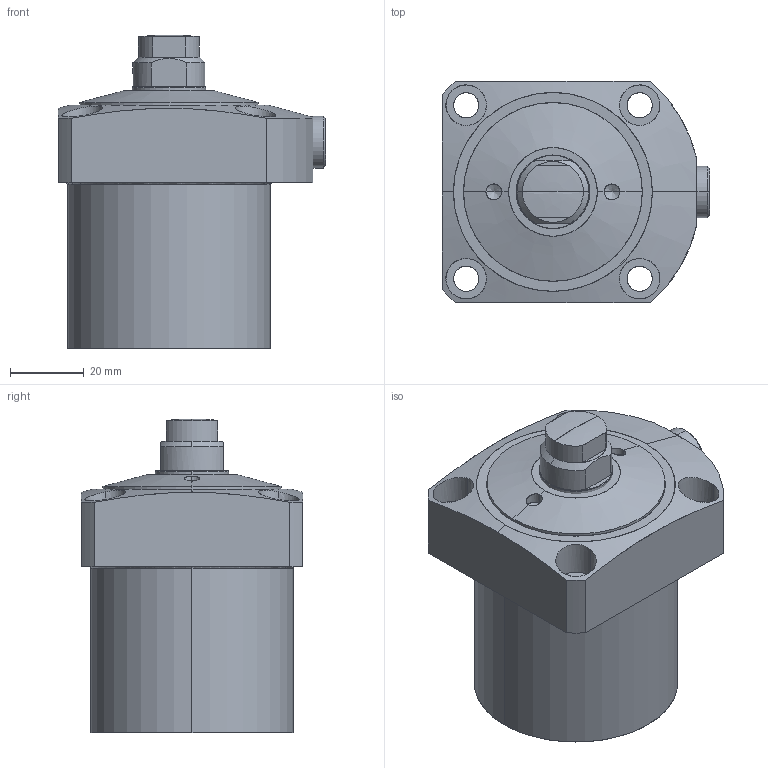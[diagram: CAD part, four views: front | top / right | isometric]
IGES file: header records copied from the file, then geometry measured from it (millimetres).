
Start section: SolidWorks IGES file using analytic representation for surfaces
Global section: file name: F:\clasys\55\LC0552-C.IGS; native system: SolidWorks 2010; preprocessor: SolidWorks 2010; author: nijil; date: 130720.235148; units: millimetre
Bounding box: 72.5 x 60 x 85 mm (x, y, z)
Surface area: 24210.1 mm2 (no closed solid volume)
Topology: 0 solids, 0 shells, 86 faces, 1653 edges, 1648 vertices
Faces by surface type: revolution 56, bspline 30
